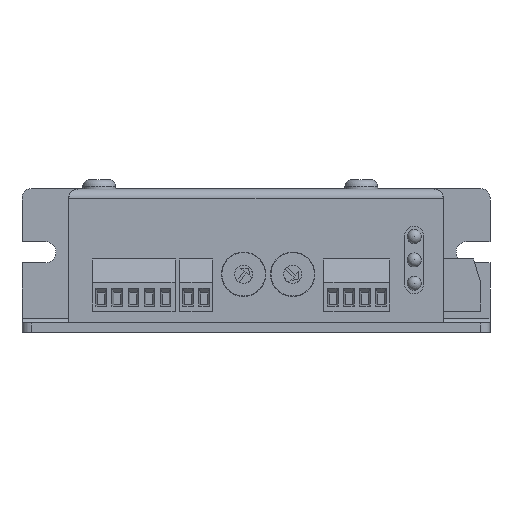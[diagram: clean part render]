
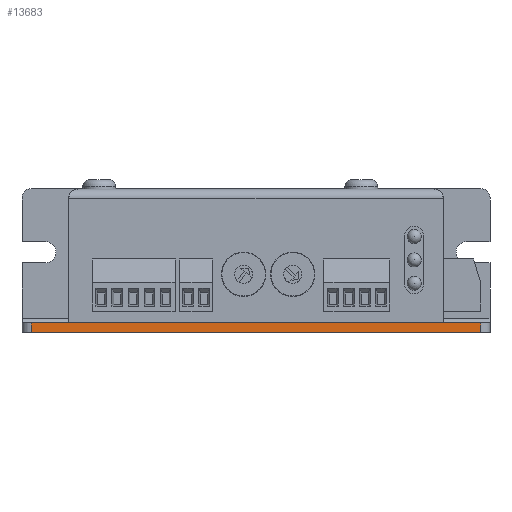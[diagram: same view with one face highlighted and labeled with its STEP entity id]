
A CAD part, front view. The second image highlights one B-rep face of the part: STEP entity #13683.
In plain terms, the highlighted planar face has unit normal (0, -1, 0).
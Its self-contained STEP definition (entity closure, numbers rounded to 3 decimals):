
#1055 = EDGE_CURVE ( 'NONE', #15509, #15510, #6929, .T. ) ;
#1080 = EDGE_CURVE ( 'NONE', #15417, #15509, #6986, .T. ) ;
#1081 = EDGE_CURVE ( 'NONE', #15417, #15418, #6988, .T. ) ;
#1082 = EDGE_CURVE ( 'NONE', #15510, #15418, #6982, .T. ) ;
#3196 = CARTESIAN_POINT ( 'NONE',  ( 48., -37.85, -16.3 ) ) ;
#3197 = CARTESIAN_POINT ( 'NONE',  ( -48., -37.85, -16.3 ) ) ;
#3288 = CARTESIAN_POINT ( 'NONE',  ( 48., -37.85, -14.3 ) ) ;
#3289 = CARTESIAN_POINT ( 'NONE',  ( -48., -37.85, -14.3 ) ) ;
#5496 = ORIENTED_EDGE ( 'NONE', *, *, #1081, .F. ) ;
#5497 = ORIENTED_EDGE ( 'NONE', *, *, #1080, .T. ) ;
#5498 = ORIENTED_EDGE ( 'NONE', *, *, #1055, .T. ) ;
#5499 = ORIENTED_EDGE ( 'NONE', *, *, #1082, .T. ) ;
#5684 = AXIS2_PLACEMENT_3D ( 'NONE', #14565, #14568, #14569 ) ;
#6929 = LINE ( 'NONE', #10759, #6944 ) ;
#6944 = VECTOR ( 'NONE', #10762, 1000. ) ;
#6982 = LINE ( 'NONE', #10807, #6990 ) ;
#6986 = LINE ( 'NONE', #10819, #6987 ) ;
#6987 = VECTOR ( 'NONE', #10820, 1000. ) ;
#6988 = LINE ( 'NONE', #10822, #6989 ) ;
#6989 = VECTOR ( 'NONE', #10823, 1000. ) ;
#6990 = VECTOR ( 'NONE', #10825, 1000. ) ;
#10759 = CARTESIAN_POINT ( 'NONE',  ( 50., -37.85, -14.3 ) ) ;
#10762 = DIRECTION ( 'NONE',  ( -1., 0., 0. ) ) ;
#10807 = CARTESIAN_POINT ( 'NONE',  ( -48., -37.85, -16.3 ) ) ;
#10819 = CARTESIAN_POINT ( 'NONE',  ( 48., -37.85, -14.3 ) ) ;
#10820 = DIRECTION ( 'NONE',  ( 0., 0., 1. ) ) ;
#10822 = CARTESIAN_POINT ( 'NONE',  ( 50., -37.85, -16.3 ) ) ;
#10823 = DIRECTION ( 'NONE',  ( -1., 0., 0. ) ) ;
#10825 = DIRECTION ( 'NONE',  ( 0., 0., -1. ) ) ;
#13683 = ADVANCED_FACE ( 'NONE', ( #18854 ), #14566, .F. ) ;
#14565 = CARTESIAN_POINT ( 'NONE',  ( 50., -37.85, -14.3 ) ) ;
#14566 = PLANE ( 'NONE',  #5684 ) ;
#14568 = DIRECTION ( 'NONE',  ( 0., 1., 0. ) ) ;
#14569 = DIRECTION ( 'NONE',  ( 0., 0., 1. ) ) ;
#15417 = VERTEX_POINT ( 'NONE', #3196 ) ;
#15418 = VERTEX_POINT ( 'NONE', #3197 ) ;
#15509 = VERTEX_POINT ( 'NONE', #3288 ) ;
#15510 = VERTEX_POINT ( 'NONE', #3289 ) ;
#17512 = EDGE_LOOP ( 'NONE', ( #5496, #5497, #5498, #5499 ) ) ;
#18854 = FACE_OUTER_BOUND ( 'NONE', #17512, .T. ) ;
